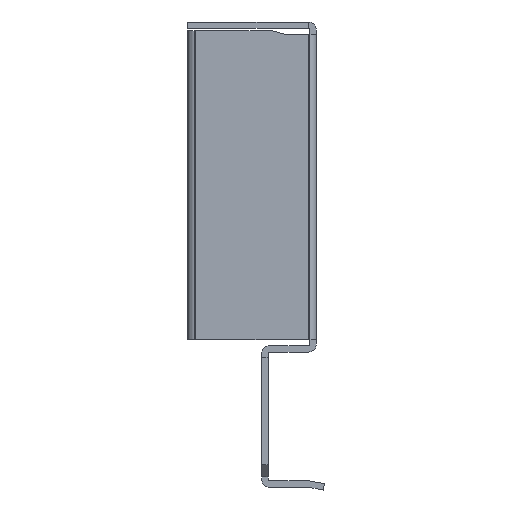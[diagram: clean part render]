
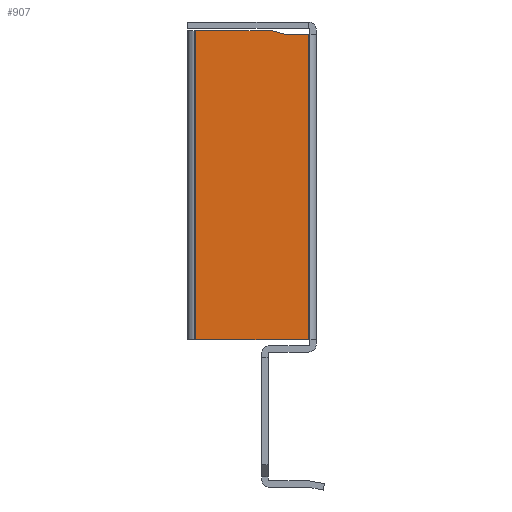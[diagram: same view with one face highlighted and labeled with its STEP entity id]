
A CAD part, left-side view. The second image highlights one B-rep face of the part: STEP entity #907.
In plain terms, the highlighted planar face has unit normal (-1, 0, 0).
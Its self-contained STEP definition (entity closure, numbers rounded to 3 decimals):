
#48 = VERTEX_POINT ( 'NONE', #407 ) ;
#52 = VERTEX_POINT ( 'NONE', #406 ) ;
#82 = VERTEX_POINT ( 'NONE', #399 ) ;
#87 = VERTEX_POINT ( 'NONE', #398 ) ;
#151 = VERTEX_POINT ( 'NONE', #381 ) ;
#191 = DIRECTION ( 'NONE',  ( 0., 0., -1. ) ) ;
#192 = CARTESIAN_POINT ( 'NONE',  ( -205., -5., 74.385 ) ) ;
#193 = DIRECTION ( 'NONE',  ( 0., -0.966, -0.259 ) ) ;
#194 = CARTESIAN_POINT ( 'NONE',  ( -205., 0.612, 56.2 ) ) ;
#196 = DIRECTION ( 'NONE',  ( 0., -1., 0. ) ) ;
#197 = CARTESIAN_POINT ( 'NONE',  ( -205., -2., 55.5 ) ) ;
#199 = DIRECTION ( 'NONE',  ( 0., 0., -1. ) ) ;
#200 = CARTESIAN_POINT ( 'NONE',  ( -205., 9., 74.385 ) ) ;
#222 = DIRECTION ( 'NONE',  ( 0., 1., 0. ) ) ;
#223 = CARTESIAN_POINT ( 'NONE',  ( -205., -5., 55.9 ) ) ;
#306 = CARTESIAN_POINT ( 'NONE',  ( -205., -2., 55.5 ) ) ;
#381 = CARTESIAN_POINT ( 'NONE',  ( -205., 9., 55.9 ) ) ;
#398 = CARTESIAN_POINT ( 'NONE',  ( -205., -5., 55.5 ) ) ;
#399 = CARTESIAN_POINT ( 'NONE',  ( -205., -0.507, 55.9 ) ) ;
#406 = CARTESIAN_POINT ( 'NONE',  ( -205., 9., 17.5 ) ) ;
#407 = CARTESIAN_POINT ( 'NONE',  ( -205., -5., 17.5 ) ) ;
#480 = VERTEX_POINT ( 'NONE', #306 ) ;
#534 = EDGE_CURVE ( 'NONE', #82, #151, #1727, .T. ) ;
#542 = EDGE_CURVE ( 'NONE', #151, #52, #1742, .T. ) ;
#543 = EDGE_CURVE ( 'NONE', #480, #87, #1744, .T. ) ;
#544 = EDGE_CURVE ( 'NONE', #82, #480, #1746, .T. ) ;
#545 = EDGE_CURVE ( 'NONE', #87, #48, #1748, .T. ) ;
#611 = EDGE_CURVE ( 'NONE', #48, #52, #1860, .T. ) ;
#822 = AXIS2_PLACEMENT_3D ( 'NONE', #2295, #2294, #2293 ) ;
#907 = ADVANCED_FACE ( 'NONE', ( #2140 ), #2296, .T. ) ;
#1110 = EDGE_LOOP ( 'NONE', ( #1606, #1607, #1608, #1609, #1610, #1611 ) ) ;
#1606 = ORIENTED_EDGE ( 'NONE', *, *, #543, .F. ) ;
#1607 = ORIENTED_EDGE ( 'NONE', *, *, #544, .F. ) ;
#1608 = ORIENTED_EDGE ( 'NONE', *, *, #534, .T. ) ;
#1609 = ORIENTED_EDGE ( 'NONE', *, *, #542, .T. ) ;
#1610 = ORIENTED_EDGE ( 'NONE', *, *, #611, .F. ) ;
#1611 = ORIENTED_EDGE ( 'NONE', *, *, #545, .F. ) ;
#1727 = LINE ( 'NONE', #223, #1729 ) ;
#1729 = VECTOR ( 'NONE', #222, 1000. ) ;
#1742 = LINE ( 'NONE', #200, #1743 ) ;
#1743 = VECTOR ( 'NONE', #199, 1000. ) ;
#1744 = LINE ( 'NONE', #197, #1745 ) ;
#1745 = VECTOR ( 'NONE', #196, 1000. ) ;
#1746 = LINE ( 'NONE', #194, #1747 ) ;
#1747 = VECTOR ( 'NONE', #193, 1000. ) ;
#1748 = LINE ( 'NONE', #192, #1749 ) ;
#1749 = VECTOR ( 'NONE', #191, 1000. ) ;
#1860 = LINE ( 'NONE', #2258, #1862 ) ;
#1862 = VECTOR ( 'NONE', #2256, 1000. ) ;
#2140 = FACE_OUTER_BOUND ( 'NONE', #1110, .T. ) ;
#2256 = DIRECTION ( 'NONE',  ( 0., 1., 0. ) ) ;
#2258 = CARTESIAN_POINT ( 'NONE',  ( -205., -5., 17.5 ) ) ;
#2293 = DIRECTION ( 'NONE',  ( 0., -1., 0. ) ) ;
#2294 = DIRECTION ( 'NONE',  ( -1., 0., 0. ) ) ;
#2295 = CARTESIAN_POINT ( 'NONE',  ( -205., -5., 74.385 ) ) ;
#2296 = PLANE ( 'NONE',  #822 ) ;
